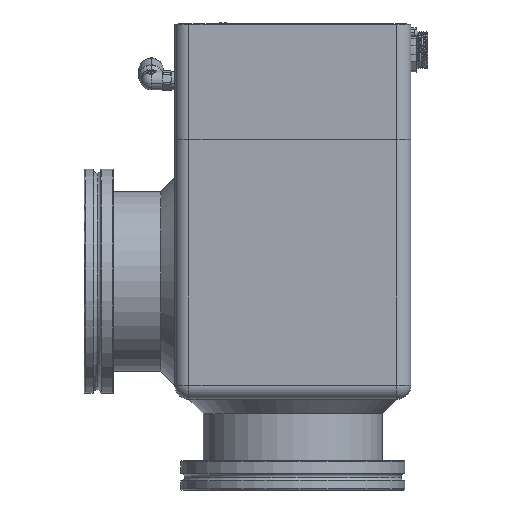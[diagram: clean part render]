
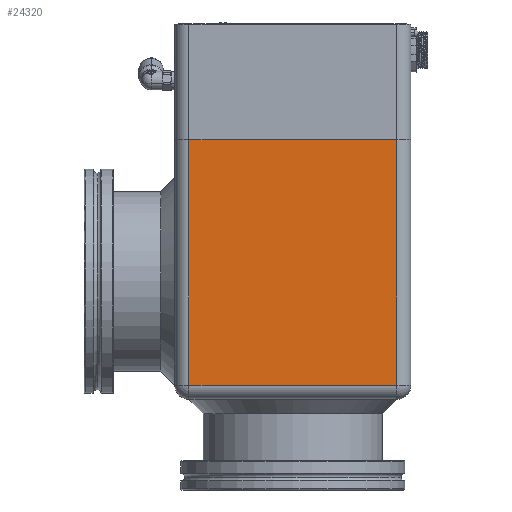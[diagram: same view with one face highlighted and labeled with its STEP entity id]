
A CAD part, front view. The second image highlights one B-rep face of the part: STEP entity #24320.
In plain terms, the highlighted planar face has unit normal (0, -1, 0).
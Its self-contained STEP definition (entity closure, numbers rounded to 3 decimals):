
#2036 = ORIENTED_EDGE ( 'NONE', *, *, #20262, .T. ) ;
#2099 = VERTEX_POINT ( 'NONE', #22852 ) ;
#4862 = CARTESIAN_POINT ( 'NONE',  ( -44., -50., 110. ) ) ;
#4976 = DIRECTION ( 'NONE',  ( 0., 0., 1. ) ) ;
#5299 = LINE ( 'NONE', #37314, #26982 ) ;
#5843 = VERTEX_POINT ( 'NONE', #11584 ) ;
#6788 = EDGE_LOOP ( 'NONE', ( #18262, #25120, #2036, #25265 ) ) ;
#6872 = CARTESIAN_POINT ( 'NONE',  ( 44., -50., 6. ) ) ;
#8287 = VECTOR ( 'NONE', #12512, 1000. ) ;
#9206 = VERTEX_POINT ( 'NONE', #22354 ) ;
#10890 = VECTOR ( 'NONE', #30421, 1000. ) ;
#11584 = CARTESIAN_POINT ( 'NONE',  ( -44., -50., 110. ) ) ;
#12235 = DIRECTION ( 'NONE',  ( 1., 0., 0. ) ) ;
#12512 = DIRECTION ( 'NONE',  ( 0., 0., 1. ) ) ;
#15047 = AXIS2_PLACEMENT_3D ( 'NONE', #22760, #30928, #4976 ) ;
#17801 = CARTESIAN_POINT ( 'NONE',  ( 44., -50., 110. ) ) ;
#17903 = LINE ( 'NONE', #18275, #30646 ) ;
#18262 = ORIENTED_EDGE ( 'NONE', *, *, #29197, .T. ) ;
#18275 = CARTESIAN_POINT ( 'NONE',  ( 44., -50., 6. ) ) ;
#20262 = EDGE_CURVE ( 'NONE', #25785, #9206, #35811, .T. ) ;
#20835 = EDGE_CURVE ( 'NONE', #2099, #25785, #17903, .T. ) ;
#22354 = CARTESIAN_POINT ( 'NONE',  ( 44., -50., 110. ) ) ;
#22391 = FACE_OUTER_BOUND ( 'NONE', #6788, .T. ) ;
#22760 = CARTESIAN_POINT ( 'NONE',  ( -50., -50., 110. ) ) ;
#22852 = CARTESIAN_POINT ( 'NONE',  ( -44., -50., 6. ) ) ;
#24320 = ADVANCED_FACE ( 'NONE', ( #22391 ), #28461, .F. ) ;
#24550 = EDGE_CURVE ( 'NONE', #5843, #9206, #5299, .T. ) ;
#25120 = ORIENTED_EDGE ( 'NONE', *, *, #20835, .T. ) ;
#25265 = ORIENTED_EDGE ( 'NONE', *, *, #24550, .F. ) ;
#25382 = DIRECTION ( 'NONE',  ( 1., 0., 0. ) ) ;
#25785 = VERTEX_POINT ( 'NONE', #6872 ) ;
#26982 = VECTOR ( 'NONE', #25382, 1000. ) ;
#28461 = PLANE ( 'NONE',  #15047 ) ;
#29197 = EDGE_CURVE ( 'NONE', #5843, #2099, #33832, .T. ) ;
#30421 = DIRECTION ( 'NONE',  ( 0., 0., -1. ) ) ;
#30646 = VECTOR ( 'NONE', #12235, 1000. ) ;
#30928 = DIRECTION ( 'NONE',  ( 0., 1., 0. ) ) ;
#33832 = LINE ( 'NONE', #4862, #10890 ) ;
#35811 = LINE ( 'NONE', #17801, #8287 ) ;
#37314 = CARTESIAN_POINT ( 'NONE',  ( -50., -50., 110. ) ) ;
